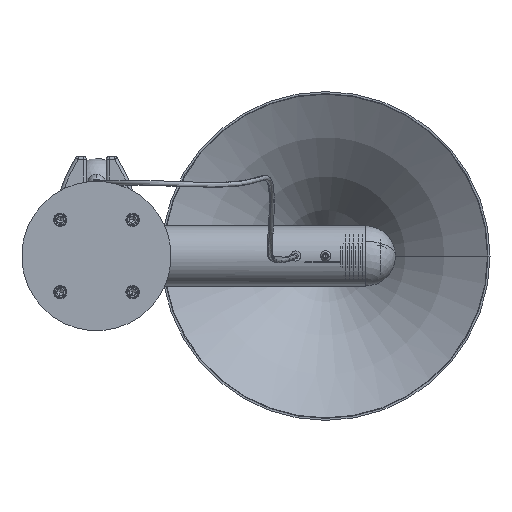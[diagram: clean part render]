
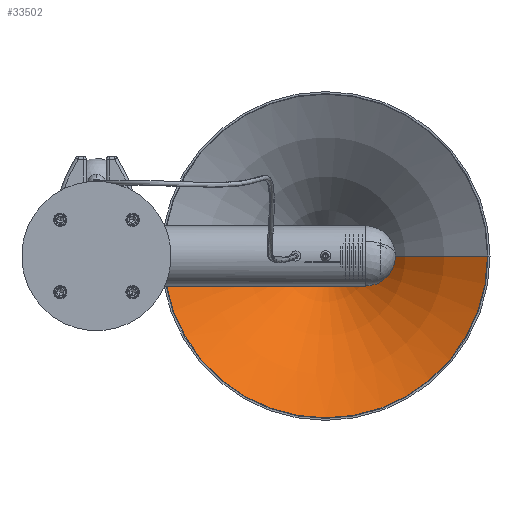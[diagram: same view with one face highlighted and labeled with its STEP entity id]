
A CAD part, front view. The second image highlights one B-rep face of the part: STEP entity #33502.
In plain terms, the highlighted toroidal (fillet/blend) face has major radius 326.861 mm and minor radius 355.1 mm.
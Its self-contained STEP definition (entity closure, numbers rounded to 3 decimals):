
#1862 = VERTEX_POINT ( 'NONE', #41690 ) ;
#1951 = ORIENTED_EDGE ( 'NONE', *, *, #43662, .T. ) ;
#2768 = DIRECTION ( 'NONE',  ( 1., 0., 0. ) ) ;
#7570 = VERTEX_POINT ( 'NONE', #34548 ) ;
#10821 = EDGE_CURVE ( 'NONE', #21400, #7570, #41051, .T. ) ;
#11023 = CARTESIAN_POINT ( 'NONE',  ( 0., -200.422, 0. ) ) ;
#11847 = AXIS2_PLACEMENT_3D ( 'NONE', #15728, #39664, #2768 ) ;
#12042 = ORIENTED_EDGE ( 'NONE', *, *, #10821, .F. ) ;
#13167 = CARTESIAN_POINT ( 'NONE',  ( -17.665, -200.422, 0. ) ) ;
#13262 = DIRECTION ( 'NONE',  ( 0., -1., 0. ) ) ;
#15728 = CARTESIAN_POINT ( 'NONE',  ( 0., -340.55, 0. ) ) ;
#16322 = ORIENTED_EDGE ( 'NONE', *, *, #19076, .F. ) ;
#17115 = CARTESIAN_POINT ( 'NONE',  ( 0., -25.798, 0. ) ) ;
#17724 = AXIS2_PLACEMENT_3D ( 'NONE', #20075, #35323, #24002 ) ;
#18125 = EDGE_CURVE ( 'NONE', #18276, #1862, #41185, .T. ) ;
#18162 = DIRECTION ( 'NONE',  ( 0., -1., 0. ) ) ;
#18276 = VERTEX_POINT ( 'NONE', #34090 ) ;
#18987 = TOROIDAL_SURFACE ( 'NONE', #41381, 326.861, 355.1 ) ;
#19076 = EDGE_CURVE ( 'NONE', #1862, #21400, #24815, .T. ) ;
#20075 = CARTESIAN_POINT ( 'NONE',  ( 326.861, -25.798, 0. ) ) ;
#21400 = VERTEX_POINT ( 'NONE', #13167 ) ;
#24002 = DIRECTION ( 'NONE',  ( -1., 0., 0. ) ) ;
#24665 = DIRECTION ( 'NONE',  ( 0., 0., 1. ) ) ;
#24815 = CIRCLE ( 'NONE', #39700, 355.1 ) ;
#25082 = DIRECTION ( 'NONE',  ( 1., 0., 0. ) ) ;
#27533 = ORIENTED_EDGE ( 'NONE', *, *, #18125, .F. ) ;
#29027 = AXIS2_PLACEMENT_3D ( 'NONE', #11023, #18162, #25082 ) ;
#31317 = FACE_OUTER_BOUND ( 'NONE', #35542, .T. ) ;
#33502 = ADVANCED_FACE ( 'NONE', ( #31317 ), #18987, .T. ) ;
#33572 = DIRECTION ( 'NONE',  ( 1., 0., 0. ) ) ;
#34090 = CARTESIAN_POINT ( 'NONE',  ( 162.463, -340.55, 0. ) ) ;
#34548 = CARTESIAN_POINT ( 'NONE',  ( 17.665, -200.422, 0. ) ) ;
#35323 = DIRECTION ( 'NONE',  ( 0., 0., -1. ) ) ;
#35542 = EDGE_LOOP ( 'NONE', ( #16322, #27533, #1951, #12042 ) ) ;
#38132 = CIRCLE ( 'NONE', #17724, 355.1 ) ;
#39664 = DIRECTION ( 'NONE',  ( 0., 1., 0. ) ) ;
#39700 = AXIS2_PLACEMENT_3D ( 'NONE', #41138, #24665, #42046 ) ;
#41051 = CIRCLE ( 'NONE', #29027, 17.665 ) ;
#41138 = CARTESIAN_POINT ( 'NONE',  ( -326.861, -25.798, 0. ) ) ;
#41185 = CIRCLE ( 'NONE', #11847, 162.463 ) ;
#41381 = AXIS2_PLACEMENT_3D ( 'NONE', #17115, #13262, #33572 ) ;
#41690 = CARTESIAN_POINT ( 'NONE',  ( -162.463, -340.55, 0. ) ) ;
#42046 = DIRECTION ( 'NONE',  ( 1., 0., 0. ) ) ;
#43662 = EDGE_CURVE ( 'NONE', #18276, #7570, #38132, .T. ) ;
